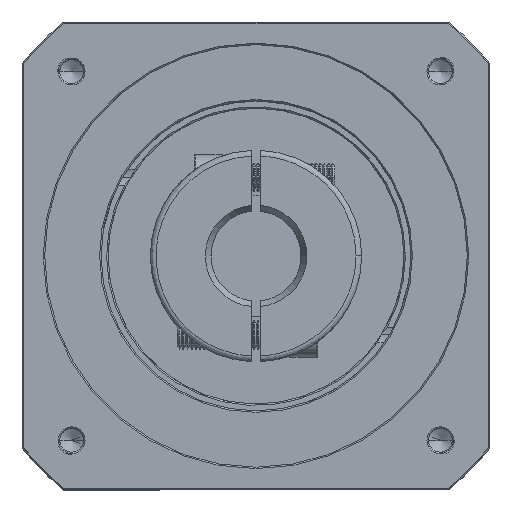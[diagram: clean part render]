
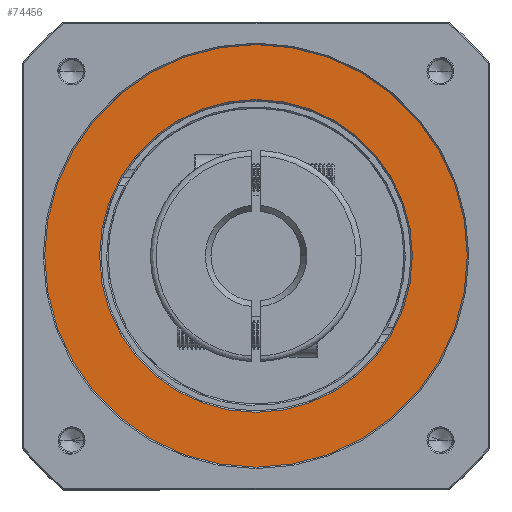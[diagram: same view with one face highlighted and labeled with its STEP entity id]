
A CAD part, top view. The second image highlights one B-rep face of the part: STEP entity #74456.
In plain terms, the highlighted planar face has unit normal (0, 0, 1).
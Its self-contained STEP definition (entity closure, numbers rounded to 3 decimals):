
#6531 = CARTESIAN_POINT ( 'NONE',  ( -112.907, 83.38, 22.797 ) ) ;
#9237 = DIRECTION ( 'NONE',  ( 1., 0., 0. ) ) ;
#15421 = CIRCLE ( 'NONE', #131178, 55.5 ) ;
#19614 = CARTESIAN_POINT ( 'NONE',  ( -57.407, 83.38, 22.797 ) ) ;
#21648 = DIRECTION ( 'NONE',  ( 0., 0., 1. ) ) ;
#22534 = DIRECTION ( 'NONE',  ( 1., 0., 0. ) ) ;
#23520 = EDGE_LOOP ( 'NONE', ( #34054, #97425 ) ) ;
#24257 = EDGE_CURVE ( 'NONE', #131741, #106487, #95157, .T. ) ;
#30239 = CARTESIAN_POINT ( 'NONE',  ( -112.907, 83.38, 22.797 ) ) ;
#30440 = FACE_OUTER_BOUND ( 'NONE', #85925, .T. ) ;
#31649 = DIRECTION ( 'NONE',  ( 0., 0., -1. ) ) ;
#34054 = ORIENTED_EDGE ( 'NONE', *, *, #24257, .T. ) ;
#35403 = EDGE_CURVE ( 'NONE', #106487, #131741, #15421, .T. ) ;
#36079 = AXIS2_PLACEMENT_3D ( 'NONE', #64259, #21648, #22534 ) ;
#43610 = PLANE ( 'NONE',  #36079 ) ;
#47695 = EDGE_CURVE ( 'NONE', #106617, #120413, #90307, .T. ) ;
#48163 = CARTESIAN_POINT ( 'NONE',  ( -112.907, 83.38, 22.797 ) ) ;
#53491 = DIRECTION ( 'NONE',  ( 1., 0., 0. ) ) ;
#58940 = CARTESIAN_POINT ( 'NONE',  ( -168.407, 83.38, 22.797 ) ) ;
#61707 = EDGE_CURVE ( 'NONE', #120413, #106617, #119277, .T. ) ;
#64259 = CARTESIAN_POINT ( 'NONE',  ( -112.907, 83.38, 22.797 ) ) ;
#65146 = CARTESIAN_POINT ( 'NONE',  ( -112.907, 83.38, 22.797 ) ) ;
#70594 = DIRECTION ( 'NONE',  ( 0., 0., 1. ) ) ;
#74456 = ADVANCED_FACE ( 'NONE', ( #75573, #30440 ), #43610, .T. ) ;
#75573 = FACE_BOUND ( 'NONE', #23520, .T. ) ;
#85298 = DIRECTION ( 'NONE',  ( 0., 0., 1. ) ) ;
#85925 = EDGE_LOOP ( 'NONE', ( #96637, #100151 ) ) ;
#87442 = CARTESIAN_POINT ( 'NONE',  ( -37.907, 83.38, 22.797 ) ) ;
#90307 = CIRCLE ( 'NONE', #116799, 75. ) ;
#91862 = AXIS2_PLACEMENT_3D ( 'NONE', #6531, #70594, #102505 ) ;
#95157 = CIRCLE ( 'NONE', #134166, 55.5 ) ;
#96637 = ORIENTED_EDGE ( 'NONE', *, *, #61707, .T. ) ;
#97425 = ORIENTED_EDGE ( 'NONE', *, *, #35403, .T. ) ;
#100151 = ORIENTED_EDGE ( 'NONE', *, *, #47695, .T. ) ;
#102505 = DIRECTION ( 'NONE',  ( 1., 0., 0. ) ) ;
#106487 = VERTEX_POINT ( 'NONE', #58940 ) ;
#106617 = VERTEX_POINT ( 'NONE', #114684 ) ;
#114684 = CARTESIAN_POINT ( 'NONE',  ( -187.907, 83.38, 22.797 ) ) ;
#116799 = AXIS2_PLACEMENT_3D ( 'NONE', #65146, #85298, #53491 ) ;
#119277 = CIRCLE ( 'NONE', #91862, 75. ) ;
#120413 = VERTEX_POINT ( 'NONE', #87442 ) ;
#123195 = DIRECTION ( 'NONE',  ( 0., 0., -1. ) ) ;
#123666 = DIRECTION ( 'NONE',  ( 1., 0., 0. ) ) ;
#131178 = AXIS2_PLACEMENT_3D ( 'NONE', #30239, #31649, #9237 ) ;
#131741 = VERTEX_POINT ( 'NONE', #19614 ) ;
#134166 = AXIS2_PLACEMENT_3D ( 'NONE', #48163, #123195, #123666 ) ;
